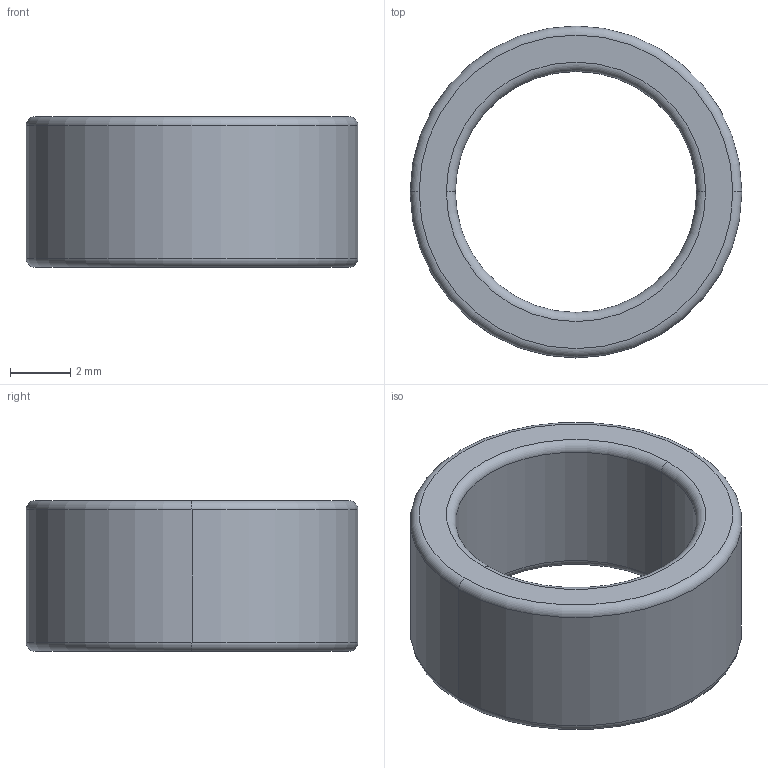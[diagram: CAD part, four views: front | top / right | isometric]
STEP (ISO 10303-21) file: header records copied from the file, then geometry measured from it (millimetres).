
FILE_DESCRIPTION (( 'STEP AP214' ), '1' );
FILE_NAME ('10_bit4.STEP', '2020-02-06T04:16:55', ( '' ), ( '' ), 'SwSTEP 2.0', 'SolidWorks 2019', '' );
FILE_SCHEMA (( 'AUTOMOTIVE_DESIGN' ));
Length unit declared in the file: millimetre
Products named in the file (1): 10_bit4
Bounding box: 11 x 11 x 5 mm (x, y, z)
Volume: 221.5 mm3; surface area: 372.6 mm2
Topology: 1 solids, 1 shells, 14 faces, 28 edges, 16 vertices
Faces by surface type: torus 8, cylinder 4, plane 2
Entity records: 454 total; most frequent: DIRECTION 82, CARTESIAN_POINT 59, ORIENTED_EDGE 56, AXIS2_PLACEMENT_3D 39, EDGE_CURVE 28, CIRCLE 24, EDGE_LOOP 16, VERTEX_POINT 16
